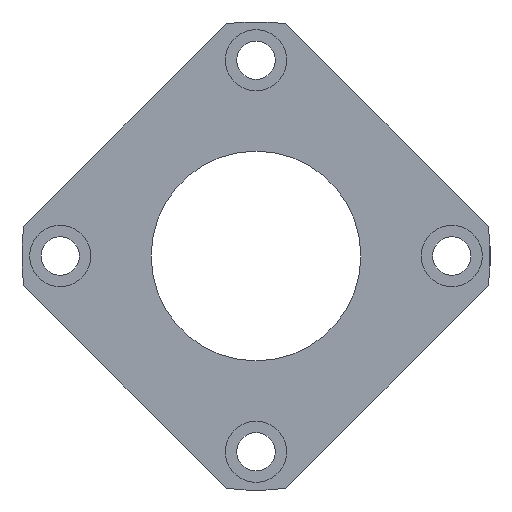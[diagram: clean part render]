
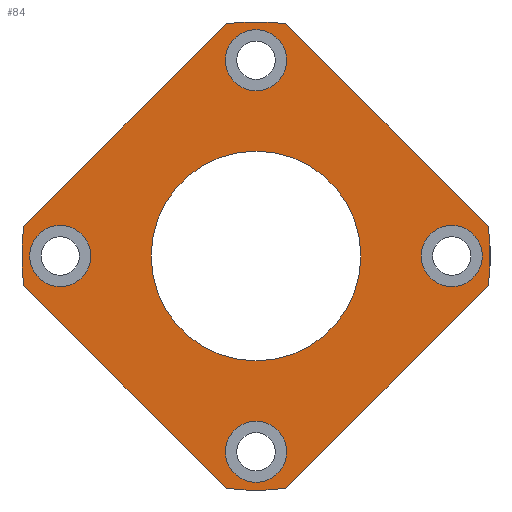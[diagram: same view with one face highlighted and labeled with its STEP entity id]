
A CAD part, left-side view. The second image highlights one B-rep face of the part: STEP entity #84.
In plain terms, the highlighted planar face has unit normal (-1, 0, 0).
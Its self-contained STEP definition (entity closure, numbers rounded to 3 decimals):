
#84 = ADVANCED_FACE( '', ( #125, #126, #127, #128, #129, #130 ), #131, .T. );
#125 = FACE_BOUND( '', #200, .T. );
#126 = FACE_BOUND( '', #201, .T. );
#127 = FACE_OUTER_BOUND( '', #202, .T. );
#128 = FACE_BOUND( '', #203, .T. );
#129 = FACE_BOUND( '', #204, .T. );
#130 = FACE_BOUND( '', #205, .T. );
#131 = PLANE( '', #206 );
#200 = EDGE_LOOP( '', ( #321 ) );
#201 = EDGE_LOOP( '', ( #322 ) );
#202 = EDGE_LOOP( '', ( #323, #324, #325, #326, #327, #328, #329, #330 ) );
#203 = EDGE_LOOP( '', ( #331 ) );
#204 = EDGE_LOOP( '', ( #332 ) );
#205 = EDGE_LOOP( '', ( #333 ) );
#206 = AXIS2_PLACEMENT_3D( '', #334, #335, #336 );
#321 = ORIENTED_EDGE( '', *, *, #444, .T. );
#322 = ORIENTED_EDGE( '', *, *, #434, .T. );
#323 = ORIENTED_EDGE( '', *, *, #445, .F. );
#324 = ORIENTED_EDGE( '', *, *, #430, .F. );
#325 = ORIENTED_EDGE( '', *, *, #419, .F. );
#326 = ORIENTED_EDGE( '', *, *, #427, .F. );
#327 = ORIENTED_EDGE( '', *, *, #415, .F. );
#328 = ORIENTED_EDGE( '', *, *, #429, .F. );
#329 = ORIENTED_EDGE( '', *, *, #423, .F. );
#330 = ORIENTED_EDGE( '', *, *, #443, .F. );
#331 = ORIENTED_EDGE( '', *, *, #446, .T. );
#332 = ORIENTED_EDGE( '', *, *, #447, .T. );
#333 = ORIENTED_EDGE( '', *, *, #448, .T. );
#334 = CARTESIAN_POINT( '', ( 0., 67., 0. ) );
#335 = DIRECTION( '', ( -1., 0., 0. ) );
#336 = DIRECTION( '', ( 0., 0., 1. ) );
#415 = EDGE_CURVE( '', #459, #461, #462, .T. );
#419 = EDGE_CURVE( '', #467, #469, #470, .T. );
#423 = EDGE_CURVE( '', #475, #477, #478, .T. );
#427 = EDGE_CURVE( '', #461, #467, #483, .T. );
#429 = EDGE_CURVE( '', #477, #459, #485, .T. );
#430 = EDGE_CURVE( '', #469, #486, #487, .T. );
#434 = EDGE_CURVE( '', #493, #493, #494, .F. );
#443 = EDGE_CURVE( '', #508, #475, #510, .T. );
#444 = EDGE_CURVE( '', #511, #511, #512, .T. );
#445 = EDGE_CURVE( '', #486, #508, #513, .T. );
#446 = EDGE_CURVE( '', #514, #514, #515, .T. );
#447 = EDGE_CURVE( '', #516, #516, #517, .T. );
#448 = EDGE_CURVE( '', #518, #518, #519, .T. );
#459 = VERTEX_POINT( '', #539 );
#461 = VERTEX_POINT( '', #542 );
#462 = LINE( '', #543, #544 );
#467 = VERTEX_POINT( '', #551 );
#469 = VERTEX_POINT( '', #554 );
#470 = LINE( '', #555, #556 );
#475 = VERTEX_POINT( '', #563 );
#477 = VERTEX_POINT( '', #566 );
#478 = LINE( '', #567, #568 );
#483 = CIRCLE( '', #575, 67. );
#485 = CIRCLE( '', #577, 67. );
#486 = VERTEX_POINT( '', #578 );
#487 = CIRCLE( '', #579, 67. );
#493 = VERTEX_POINT( '', #586 );
#494 = CIRCLE( '', #587, 8.75 );
#508 = VERTEX_POINT( '', #602 );
#510 = CIRCLE( '', #605, 67. );
#511 = VERTEX_POINT( '', #606 );
#512 = CIRCLE( '', #607, 30. );
#513 = LINE( '', #608, #609 );
#514 = VERTEX_POINT( '', #610 );
#515 = CIRCLE( '', #611, 8.75 );
#516 = VERTEX_POINT( '', #612 );
#517 = CIRCLE( '', #613, 8.75 );
#518 = VERTEX_POINT( '', #614 );
#519 = CIRCLE( '', #615, 8.75 );
#539 = CARTESIAN_POINT( '', ( 0., -66.459, -8.494 ) );
#542 = CARTESIAN_POINT( '', ( 0., -8.494, -66.459 ) );
#543 = CARTESIAN_POINT( '', ( 0., -74.953, 0. ) );
#544 = VECTOR( '', #635, 1000. );
#551 = CARTESIAN_POINT( '', ( 0., 8.494, -66.459 ) );
#554 = CARTESIAN_POINT( '', ( 0., 66.459, -8.494 ) );
#555 = CARTESIAN_POINT( '', ( 0., 0., -74.953 ) );
#556 = VECTOR( '', #639, 1000. );
#563 = CARTESIAN_POINT( '', ( 0., -8.494, 66.459 ) );
#566 = CARTESIAN_POINT( '', ( 0., -66.459, 8.494 ) );
#567 = CARTESIAN_POINT( '', ( 0., 0., 74.953 ) );
#568 = VECTOR( '', #643, 1000. );
#575 = AXIS2_PLACEMENT_3D( '', #649, #650, #651 );
#577 = AXIS2_PLACEMENT_3D( '', #655, #656, #657 );
#578 = CARTESIAN_POINT( '', ( 0., 66.459, 8.494 ) );
#579 = AXIS2_PLACEMENT_3D( '', #658, #659, #660 );
#586 = CARTESIAN_POINT( '', ( 0., 56., 8.75 ) );
#587 = AXIS2_PLACEMENT_3D( '', #668, #669, #670 );
#602 = CARTESIAN_POINT( '', ( 0., 8.494, 66.459 ) );
#605 = AXIS2_PLACEMENT_3D( '', #691, #692, #693 );
#606 = CARTESIAN_POINT( '', ( 0., 0., -30. ) );
#607 = AXIS2_PLACEMENT_3D( '', #694, #695, #696 );
#608 = CARTESIAN_POINT( '', ( 0., 74.953, 0. ) );
#609 = VECTOR( '', #697, 1000. );
#610 = CARTESIAN_POINT( '', ( 0., 0., 47.25 ) );
#611 = AXIS2_PLACEMENT_3D( '', #698, #699, #700 );
#612 = CARTESIAN_POINT( '', ( 0., 0., -64.75 ) );
#613 = AXIS2_PLACEMENT_3D( '', #701, #702, #703 );
#614 = CARTESIAN_POINT( '', ( 0., -56., -8.75 ) );
#615 = AXIS2_PLACEMENT_3D( '', #704, #705, #706 );
#635 = DIRECTION( '', ( 0., 0.707, -0.707 ) );
#639 = DIRECTION( '', ( 0., 0.707, 0.707 ) );
#643 = DIRECTION( '', ( 0., -0.707, -0.707 ) );
#649 = CARTESIAN_POINT( '', ( 0., 0., 0. ) );
#650 = DIRECTION( '', ( 1., 0., 0. ) );
#651 = DIRECTION( '', ( 0., 0., -1. ) );
#655 = CARTESIAN_POINT( '', ( 0., 0., 0. ) );
#656 = DIRECTION( '', ( 1., 0., 0. ) );
#657 = DIRECTION( '', ( 0., 0., -1. ) );
#658 = CARTESIAN_POINT( '', ( 0., 0., 0. ) );
#659 = DIRECTION( '', ( 1., 0., 0. ) );
#660 = DIRECTION( '', ( 0., 0., -1. ) );
#668 = CARTESIAN_POINT( '', ( 0., 56., 0. ) );
#669 = DIRECTION( '', ( -1., 0., 0. ) );
#670 = DIRECTION( '', ( 0., 0., 1. ) );
#691 = CARTESIAN_POINT( '', ( 0., 0., 0. ) );
#692 = DIRECTION( '', ( 1., 0., 0. ) );
#693 = DIRECTION( '', ( 0., 0., -1. ) );
#694 = CARTESIAN_POINT( '', ( 0., 0., 0. ) );
#695 = DIRECTION( '', ( 1., 0., 0. ) );
#696 = DIRECTION( '', ( 0., 0., -1. ) );
#697 = DIRECTION( '', ( 0., -0.707, 0.707 ) );
#698 = CARTESIAN_POINT( '', ( 0., 0., 56. ) );
#699 = DIRECTION( '', ( 1., 0., 0. ) );
#700 = DIRECTION( '', ( 0., 0., -1. ) );
#701 = CARTESIAN_POINT( '', ( 0., 0., -56. ) );
#702 = DIRECTION( '', ( 1., 0., 0. ) );
#703 = DIRECTION( '', ( 0., 0., -1. ) );
#704 = CARTESIAN_POINT( '', ( 0., -56., 0. ) );
#705 = DIRECTION( '', ( 1., 0., 0. ) );
#706 = DIRECTION( '', ( 0., 0., -1. ) );
